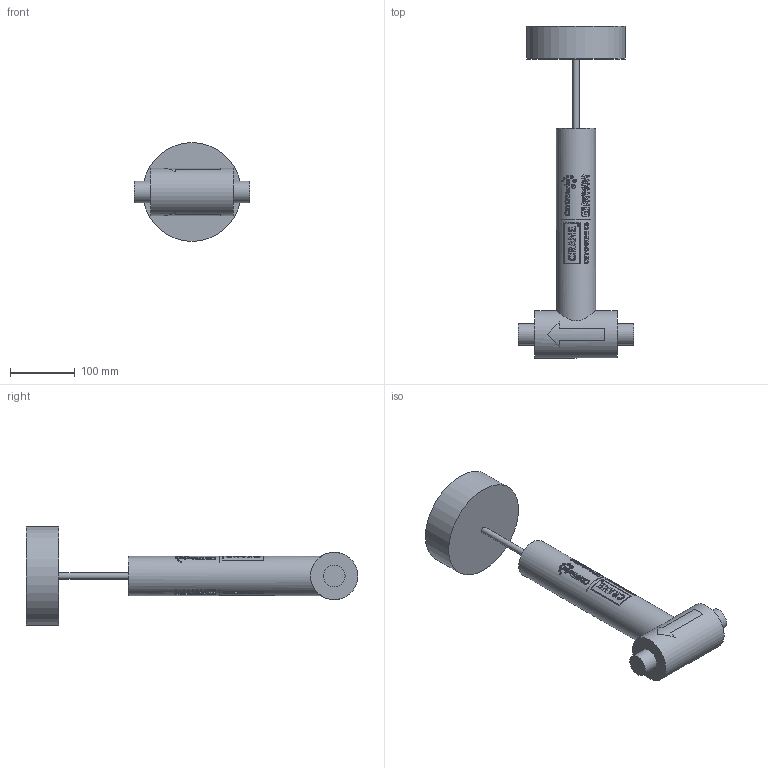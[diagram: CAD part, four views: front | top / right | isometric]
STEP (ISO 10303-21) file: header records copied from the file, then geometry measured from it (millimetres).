
FILE_DESCRIPTION (( 'STEP AP203' ), '1' );
FILE_NAME ('1in T-Pattern Manual TF Valve.step', '2025-12-17T20:08:08', ( '' ), ( '' ), 'SwSTEP 2.0', 'SolidWorks 2023', '' );
FILE_SCHEMA (( 'CONFIG_CONTROL_DESIGN' ));
Products named in the file (1): 1in T-Pattern Manual TF Valve
Bounding box: 177.8 x 512 x 152.4 mm (x, y, z)
Volume: 2318162.9 mm3; surface area: 172214 mm2
Topology: 1 solids, 1 shells, 1155 faces, 2971 edges, 1985 vertices
Faces by surface type: plane 743, cylinder 306, bspline 106
Full cylindrical faces by diameter (mm): 0.896 x2, 0.982 x2, 1.067 x2, 1.223 x2, 1.381 x2, 1.78 x2, 1.842 x2, 2.045 x2, 2.179 x2, 2.284 x2, 2.405 x2, 2.744 x2, 3.706 x2, 4.578 x2, 5.539 x2, 6.45 x2, 9.525 x1, 33.401 x2, 60.325 x1, 73.025 x1, 152.4 x1
Entity records: 48557 total; most frequent: CARTESIAN_POINT 23073, ORIENTED_EDGE 5812, DIRECTION 4334, EDGE_CURVE 2906, VERTEX_POINT 1978, LINE 1536, VECTOR 1536, AXIS2_PLACEMENT_3D 1399
